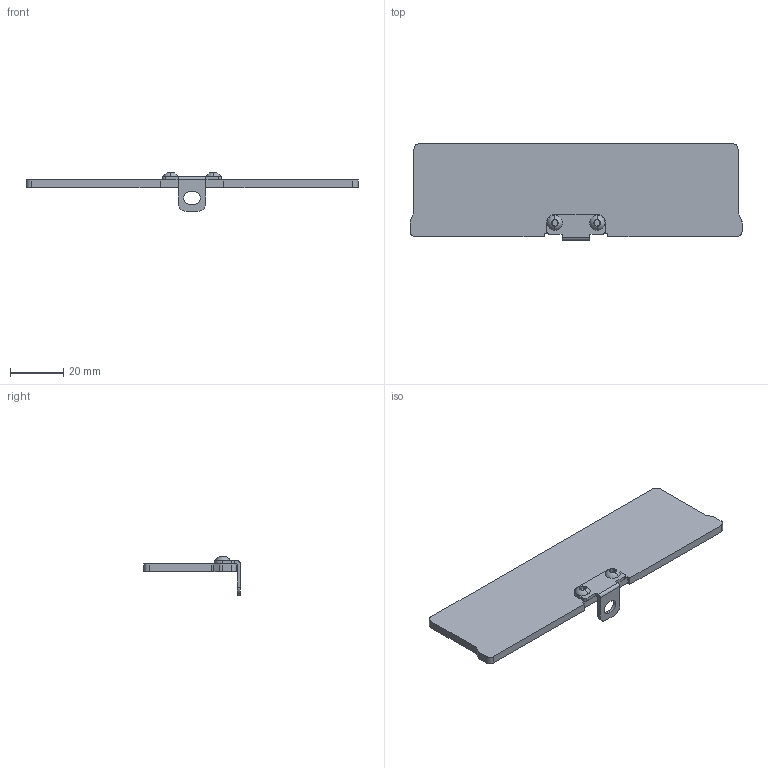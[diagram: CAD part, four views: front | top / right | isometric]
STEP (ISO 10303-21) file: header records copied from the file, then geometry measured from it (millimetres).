
FILE_DESCRIPTION((''),'2;1');
FILE_NAME('FG_VC_BASIC_C0074NP001','2026-02-23T17:10:21',('Admin'),(''),'CREO PARAMETRIC BY PTC INC, 2025010','CREO PARAMETRIC BY PTC INC, 2025010','');
FILE_SCHEMA(('CONFIG_CONTROL_DESIGN'));
Length unit declared in the file: millimetre
Products named in the file (1): FG_VC_BASIC_C0074NP001
Bounding box: 125 x 36.35 x 14.45 mm (x, y, z)
Volume: 13145.7 mm3; surface area: 9926.2 mm2
Topology: 1 solids, 3 shells, 88 faces, 234 edges, 154 vertices
Faces by surface type: plane 50, cylinder 30, sphere 4, cone 4
Entity records: 2782 total; most frequent: DIRECTION 492, CARTESIAN_POINT 472, ORIENTED_EDGE 460, EDGE_CURVE 230, AXIS2_PLACEMENT_3D 174, VERTEX_POINT 154, VECTOR 144, LINE 144
